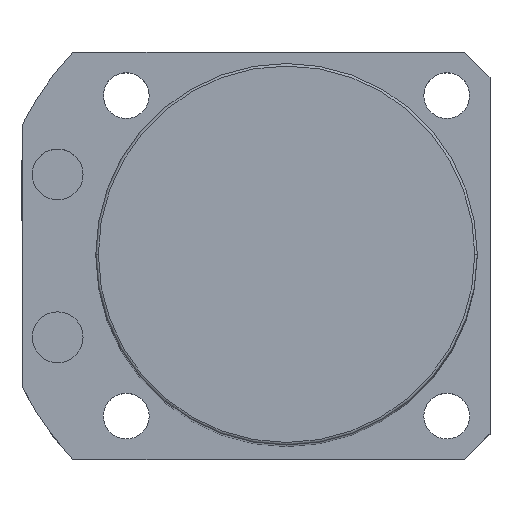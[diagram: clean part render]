
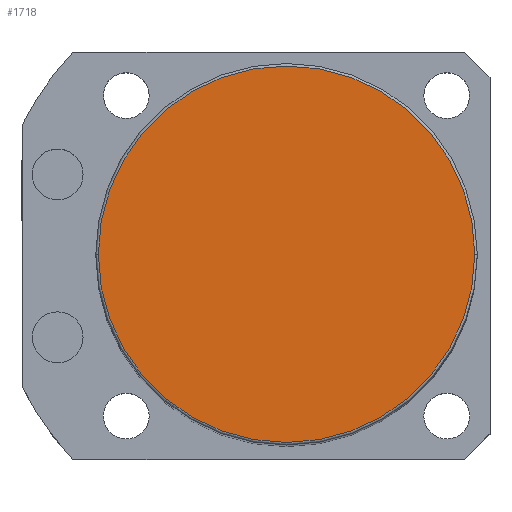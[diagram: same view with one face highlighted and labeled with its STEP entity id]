
A CAD part, top view. The second image highlights one B-rep face of the part: STEP entity #1718.
In plain terms, the highlighted planar face has unit normal (0, 0, 1).
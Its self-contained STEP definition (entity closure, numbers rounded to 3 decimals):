
#278 = CARTESIAN_POINT ( 'NONE',  ( -37., 0., 200.5 ) ) ;
#580 = VERTEX_POINT ( 'NONE', #5087 ) ;
#838 = CARTESIAN_POINT ( 'NONE',  ( 0., 0., 200.5 ) ) ;
#1446 = EDGE_CURVE ( 'NONE', #580, #2990, #5833, .T. ) ;
#1551 = FACE_OUTER_BOUND ( 'NONE', #2544, .T. ) ;
#1718 = ADVANCED_FACE ( 'NONE', ( #1551 ), #2094, .T. ) ;
#1928 = DIRECTION ( 'NONE',  ( 1., 0., 0. ) ) ;
#2094 = PLANE ( 'NONE',  #6585 ) ;
#2195 = ORIENTED_EDGE ( 'NONE', *, *, #3178, .T. ) ;
#2544 = EDGE_LOOP ( 'NONE', ( #3849, #2195 ) ) ;
#2990 = VERTEX_POINT ( 'NONE', #278 ) ;
#3178 = EDGE_CURVE ( 'NONE', #2990, #580, #3344, .T. ) ;
#3344 = CIRCLE ( 'NONE', #4648, 37. ) ;
#3849 = ORIENTED_EDGE ( 'NONE', *, *, #1446, .T. ) ;
#4167 = DIRECTION ( 'NONE',  ( 0., 0., 1. ) ) ;
#4648 = AXIS2_PLACEMENT_3D ( 'NONE', #4948, #5941, #5019 ) ;
#4948 = CARTESIAN_POINT ( 'NONE',  ( 0., 0., 200.5 ) ) ;
#5019 = DIRECTION ( 'NONE',  ( 1., 0., 0. ) ) ;
#5087 = CARTESIAN_POINT ( 'NONE',  ( 37., 0., 200.5 ) ) ;
#5411 = AXIS2_PLACEMENT_3D ( 'NONE', #838, #5476, #1928 ) ;
#5476 = DIRECTION ( 'NONE',  ( 0., 0., 1. ) ) ;
#5833 = CIRCLE ( 'NONE', #5411, 37. ) ;
#5941 = DIRECTION ( 'NONE',  ( 0., 0., 1. ) ) ;
#6180 = CARTESIAN_POINT ( 'NONE',  ( 0., 0., 200.5 ) ) ;
#6198 = DIRECTION ( 'NONE',  ( 1., 0., 0. ) ) ;
#6585 = AXIS2_PLACEMENT_3D ( 'NONE', #6180, #4167, #6198 ) ;
